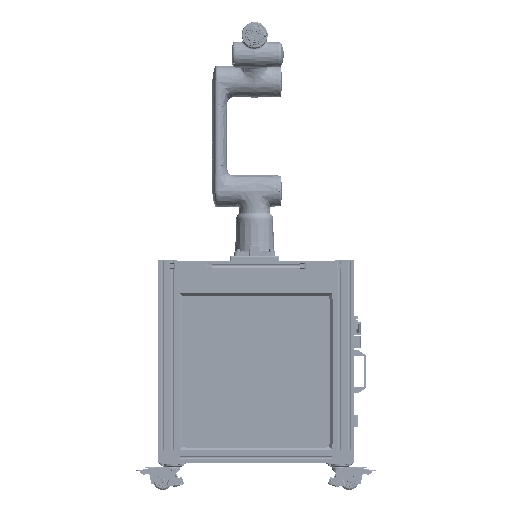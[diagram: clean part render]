
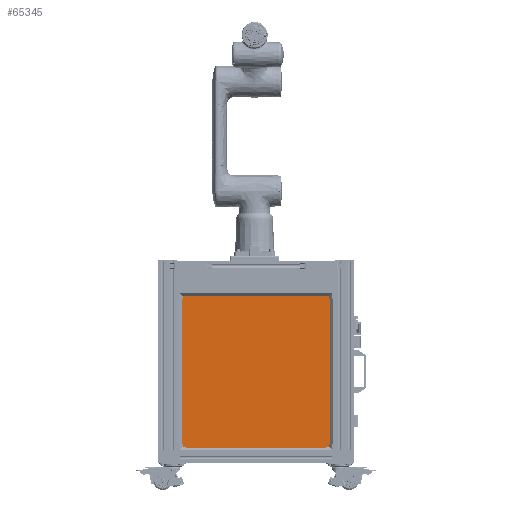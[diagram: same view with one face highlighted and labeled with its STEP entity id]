
A CAD part, left-side view. The second image highlights one B-rep face of the part: STEP entity #65345.
In plain terms, the highlighted planar face has unit normal (-1, 0, 0) as drawn and (0, 0, 1) by its records, which use the part's own axes.
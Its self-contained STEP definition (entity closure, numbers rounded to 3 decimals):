
#65345=ADVANCED_FACE('',(#126903),#126904,.T.);
#126903=FACE_OUTER_BOUND('',#261550,.T.);
#126904=PLANE('',#261551);
#261550=EDGE_LOOP('',(#460302,#460303,#460304,#460305));
#261551=AXIS2_PLACEMENT_3D('',#460306,#460307,#460308);
#460302=ORIENTED_EDGE('',*,*,#569700,.F.);
#460303=ORIENTED_EDGE('',*,*,#569713,.F.);
#460304=ORIENTED_EDGE('',*,*,#569709,.F.);
#460305=ORIENTED_EDGE('',*,*,#569705,.F.);
#460306=CARTESIAN_POINT('',(246.071,242.5,5.0));
#460307=DIRECTION('',(0.0,0.0,1.0));
#460308=DIRECTION('',(1.0,0.0,0.0));
#569700=EDGE_CURVE('',#628068,#628069,#628070,.T.);
#569705=EDGE_CURVE('',#628069,#628077,#628078,.T.);
#569709=EDGE_CURVE('',#628077,#628083,#628084,.T.);
#569713=EDGE_CURVE('',#628083,#628068,#628089,.T.);
#628068=VERTEX_POINT('',#714482);
#628069=VERTEX_POINT('',#714483);
#628070=LINE('',#714484,#714485);
#628077=VERTEX_POINT('',#714495);
#628078=LINE('',#714496,#714497);
#628083=VERTEX_POINT('',#714504);
#628084=LINE('',#714505,#714506);
#628089=LINE('',#714513,#714514);
#714482=CARTESIAN_POINT('',(-66.429,-79.5,5.0));
#714483=CARTESIAN_POINT('',(-66.429,564.5,5.0));
#714484=CARTESIAN_POINT('',(-66.429,564.5,5.0));
#714485=VECTOR('',#858965,1.0);
#714495=CARTESIAN_POINT('',(558.571,564.5,5.0));
#714496=CARTESIAN_POINT('',(558.571,564.5,5.0));
#714497=VECTOR('',#858969,1.0);
#714504=CARTESIAN_POINT('',(558.571,-79.5,5.0));
#714505=CARTESIAN_POINT('',(558.571,-79.5,5.0));
#714506=VECTOR('',#858972,1.0);
#714513=CARTESIAN_POINT('',(-66.429,-79.5,5.0));
#714514=VECTOR('',#858975,1.0);
#858965=DIRECTION('',(0.0,1.0,0.0));
#858969=DIRECTION('',(1.0,0.0,0.0));
#858972=DIRECTION('',(0.0,-1.0,0.0));
#858975=DIRECTION('',(-1.0,0.0,0.0));
